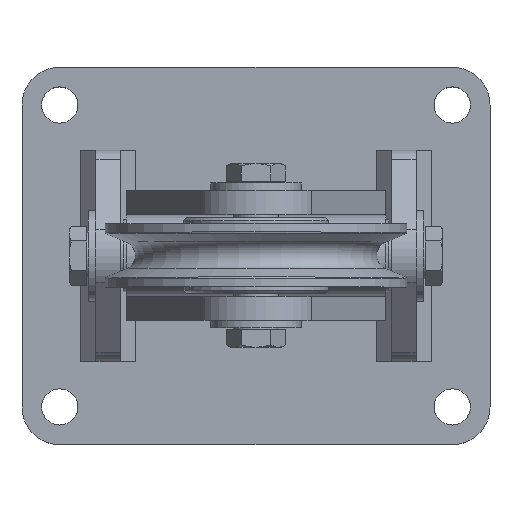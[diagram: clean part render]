
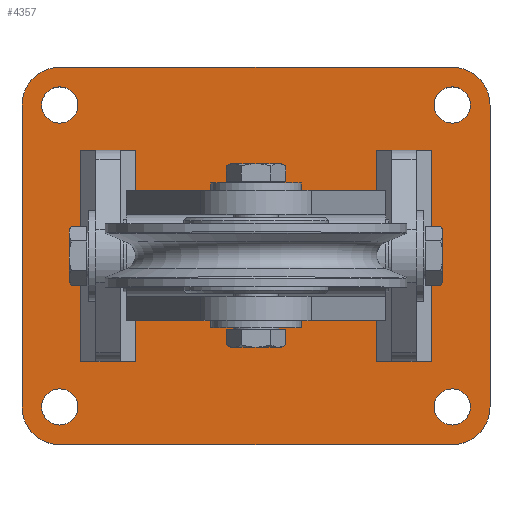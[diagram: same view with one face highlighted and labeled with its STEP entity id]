
A CAD part, top view. The second image highlights one B-rep face of the part: STEP entity #4357.
In plain terms, the highlighted planar face has unit normal (0, 0, 1).
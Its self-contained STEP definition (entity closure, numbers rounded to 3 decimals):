
#275=FACE_BOUND('',#1159,.T.);
#276=FACE_BOUND('',#1160,.T.);
#277=FACE_BOUND('',#1161,.T.);
#278=FACE_BOUND('',#1162,.T.);
#347=CIRCLE('',#5193,6.);
#348=CIRCLE('',#5194,6.);
#350=CIRCLE('',#5197,6.);
#351=CIRCLE('',#5198,6.);
#353=CIRCLE('',#5201,6.);
#354=CIRCLE('',#5202,6.);
#356=CIRCLE('',#5205,6.);
#357=CIRCLE('',#5206,6.);
#359=CIRCLE('',#5209,12.5);
#361=CIRCLE('',#5213,12.5);
#362=CIRCLE('',#5214,12.5);
#363=CIRCLE('',#5215,12.5);
#902=FACE_OUTER_BOUND('',#1158,.T.);
#1158=EDGE_LOOP('',(#3066,#3067,#3068,#3069,#3070,#3071,#3072,#3073));
#1159=EDGE_LOOP('',(#3074,#3075));
#1160=EDGE_LOOP('',(#3076,#3077));
#1161=EDGE_LOOP('',(#3078,#3079));
#1162=EDGE_LOOP('',(#3080,#3081));
#1502=LINE('',#7546,#1716);
#1505=LINE('',#7552,#1719);
#1506=LINE('',#7556,#1720);
#1507=LINE('',#7560,#1721);
#1716=VECTOR('',#5977,10.);
#1719=VECTOR('',#5982,10.);
#1720=VECTOR('',#5985,10.);
#1721=VECTOR('',#5988,10.);
#1912=VERTEX_POINT('',#7504);
#1913=VERTEX_POINT('',#7505);
#1915=VERTEX_POINT('',#7512);
#1916=VERTEX_POINT('',#7513);
#1918=VERTEX_POINT('',#7520);
#1919=VERTEX_POINT('',#7521);
#1921=VERTEX_POINT('',#7528);
#1922=VERTEX_POINT('',#7529);
#1924=VERTEX_POINT('',#7536);
#1925=VERTEX_POINT('',#7537);
#1928=VERTEX_POINT('',#7545);
#1930=VERTEX_POINT('',#7551);
#1931=VERTEX_POINT('',#7553);
#1932=VERTEX_POINT('',#7555);
#1933=VERTEX_POINT('',#7557);
#1934=VERTEX_POINT('',#7559);
#2378=EDGE_CURVE('',#1912,#1913,#347,.T.);
#2379=EDGE_CURVE('',#1913,#1912,#348,.T.);
#2382=EDGE_CURVE('',#1915,#1916,#350,.T.);
#2383=EDGE_CURVE('',#1916,#1915,#351,.T.);
#2386=EDGE_CURVE('',#1918,#1919,#353,.T.);
#2387=EDGE_CURVE('',#1919,#1918,#354,.T.);
#2390=EDGE_CURVE('',#1921,#1922,#356,.T.);
#2391=EDGE_CURVE('',#1922,#1921,#357,.T.);
#2394=EDGE_CURVE('',#1924,#1925,#359,.T.);
#2398=EDGE_CURVE('',#1928,#1925,#1502,.T.);
#2401=EDGE_CURVE('',#1924,#1930,#1505,.T.);
#2402=EDGE_CURVE('',#1931,#1930,#361,.T.);
#2403=EDGE_CURVE('',#1931,#1932,#1506,.T.);
#2404=EDGE_CURVE('',#1933,#1932,#362,.T.);
#2405=EDGE_CURVE('',#1933,#1934,#1507,.T.);
#2406=EDGE_CURVE('',#1928,#1934,#363,.T.);
#3066=ORIENTED_EDGE('',*,*,#2394,.F.);
#3067=ORIENTED_EDGE('',*,*,#2401,.T.);
#3068=ORIENTED_EDGE('',*,*,#2402,.F.);
#3069=ORIENTED_EDGE('',*,*,#2403,.T.);
#3070=ORIENTED_EDGE('',*,*,#2404,.F.);
#3071=ORIENTED_EDGE('',*,*,#2405,.T.);
#3072=ORIENTED_EDGE('',*,*,#2406,.F.);
#3073=ORIENTED_EDGE('',*,*,#2398,.T.);
#3074=ORIENTED_EDGE('',*,*,#2378,.T.);
#3075=ORIENTED_EDGE('',*,*,#2379,.T.);
#3076=ORIENTED_EDGE('',*,*,#2382,.T.);
#3077=ORIENTED_EDGE('',*,*,#2383,.T.);
#3078=ORIENTED_EDGE('',*,*,#2386,.T.);
#3079=ORIENTED_EDGE('',*,*,#2387,.T.);
#3080=ORIENTED_EDGE('',*,*,#2390,.T.);
#3081=ORIENTED_EDGE('',*,*,#2391,.T.);
#4235=PLANE('',#5212);
#4357=ADVANCED_FACE('',(#902,#275,#276,#277,#278),#4235,.T.);
#5193=AXIS2_PLACEMENT_3D('',#7506,#5933,#5934);
#5194=AXIS2_PLACEMENT_3D('',#7507,#5935,#5936);
#5197=AXIS2_PLACEMENT_3D('',#7514,#5942,#5943);
#5198=AXIS2_PLACEMENT_3D('',#7515,#5944,#5945);
#5201=AXIS2_PLACEMENT_3D('',#7522,#5951,#5952);
#5202=AXIS2_PLACEMENT_3D('',#7523,#5953,#5954);
#5205=AXIS2_PLACEMENT_3D('',#7530,#5960,#5961);
#5206=AXIS2_PLACEMENT_3D('',#7531,#5962,#5963);
#5209=AXIS2_PLACEMENT_3D('',#7538,#5969,#5970);
#5212=AXIS2_PLACEMENT_3D('',#7550,#5980,#5981);
#5213=AXIS2_PLACEMENT_3D('',#7554,#5983,#5984);
#5214=AXIS2_PLACEMENT_3D('',#7558,#5986,#5987);
#5215=AXIS2_PLACEMENT_3D('',#7561,#5989,#5990);
#5933=DIRECTION('center_axis',(0.,0.,-1.));
#5934=DIRECTION('ref_axis',(1.,0.,0.));
#5935=DIRECTION('center_axis',(0.,0.,-1.));
#5936=DIRECTION('ref_axis',(1.,0.,0.));
#5942=DIRECTION('center_axis',(0.,0.,-1.));
#5943=DIRECTION('ref_axis',(1.,0.,0.));
#5944=DIRECTION('center_axis',(0.,0.,-1.));
#5945=DIRECTION('ref_axis',(1.,0.,0.));
#5951=DIRECTION('center_axis',(0.,0.,-1.));
#5952=DIRECTION('ref_axis',(1.,0.,0.));
#5953=DIRECTION('center_axis',(0.,0.,-1.));
#5954=DIRECTION('ref_axis',(1.,0.,0.));
#5960=DIRECTION('center_axis',(0.,0.,-1.));
#5961=DIRECTION('ref_axis',(1.,0.,0.));
#5962=DIRECTION('center_axis',(0.,0.,-1.));
#5963=DIRECTION('ref_axis',(1.,0.,0.));
#5969=DIRECTION('center_axis',(0.,0.,-1.));
#5970=DIRECTION('ref_axis',(0.707,-0.707,0.));
#5977=DIRECTION('',(1.,0.,0.));
#5980=DIRECTION('center_axis',(0.,0.,1.));
#5981=DIRECTION('ref_axis',(1.,0.,0.));
#5982=DIRECTION('',(0.,1.,0.));
#5983=DIRECTION('center_axis',(0.,0.,-1.));
#5984=DIRECTION('ref_axis',(0.707,0.707,0.));
#5985=DIRECTION('',(-1.,0.,0.));
#5986=DIRECTION('center_axis',(0.,0.,-1.));
#5987=DIRECTION('ref_axis',(-0.707,0.707,0.));
#5988=DIRECTION('',(0.,-1.,0.));
#5989=DIRECTION('center_axis',(0.,0.,-1.));
#5990=DIRECTION('ref_axis',(-0.707,-0.707,0.));
#7504=CARTESIAN_POINT('',(71.,-50.,10.));
#7505=CARTESIAN_POINT('',(59.,-50.,10.));
#7506=CARTESIAN_POINT('Origin',(65.,-50.,10.));
#7507=CARTESIAN_POINT('Origin',(65.,-50.,10.));
#7512=CARTESIAN_POINT('',(-59.,50.,10.));
#7513=CARTESIAN_POINT('',(-71.,50.,10.));
#7514=CARTESIAN_POINT('Origin',(-65.,50.,10.));
#7515=CARTESIAN_POINT('Origin',(-65.,50.,10.));
#7520=CARTESIAN_POINT('',(71.,50.,10.));
#7521=CARTESIAN_POINT('',(59.,50.,10.));
#7522=CARTESIAN_POINT('Origin',(65.,50.,10.));
#7523=CARTESIAN_POINT('Origin',(65.,50.,10.));
#7528=CARTESIAN_POINT('',(-59.,-50.,10.));
#7529=CARTESIAN_POINT('',(-71.,-50.,10.));
#7530=CARTESIAN_POINT('Origin',(-65.,-50.,10.));
#7531=CARTESIAN_POINT('Origin',(-65.,-50.,10.));
#7536=CARTESIAN_POINT('',(77.5,-50.,10.));
#7537=CARTESIAN_POINT('',(65.,-62.5,10.));
#7538=CARTESIAN_POINT('Origin',(65.,-50.,10.));
#7545=CARTESIAN_POINT('',(-65.,-62.5,10.));
#7546=CARTESIAN_POINT('',(77.5,-62.5,10.));
#7550=CARTESIAN_POINT('Origin',(0.,0.,10.));
#7551=CARTESIAN_POINT('',(77.5,50.,10.));
#7552=CARTESIAN_POINT('',(77.5,62.5,10.));
#7553=CARTESIAN_POINT('',(65.,62.5,10.));
#7554=CARTESIAN_POINT('Origin',(65.,50.,10.));
#7555=CARTESIAN_POINT('',(-65.,62.5,10.));
#7556=CARTESIAN_POINT('',(-77.5,62.5,10.));
#7557=CARTESIAN_POINT('',(-77.5,50.,10.));
#7558=CARTESIAN_POINT('Origin',(-65.,50.,10.));
#7559=CARTESIAN_POINT('',(-77.5,-50.,10.));
#7560=CARTESIAN_POINT('',(-77.5,-62.5,10.));
#7561=CARTESIAN_POINT('Origin',(-65.,-50.,10.));
